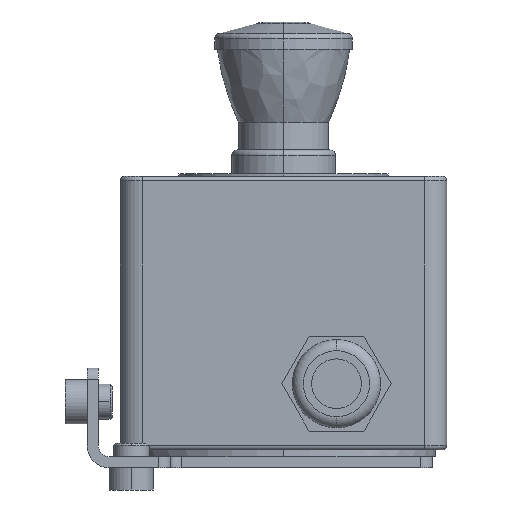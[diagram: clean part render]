
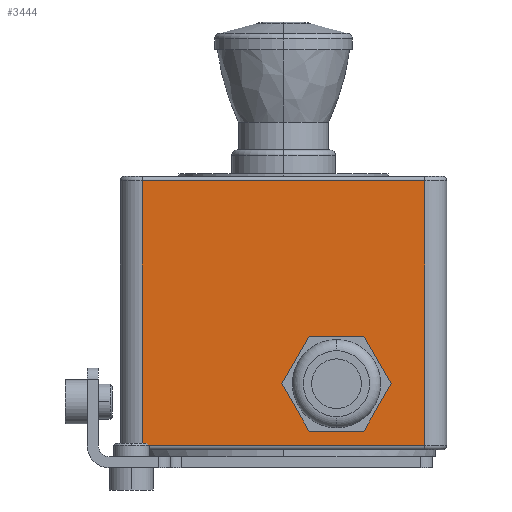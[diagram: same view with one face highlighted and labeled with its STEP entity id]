
A CAD part, left-side view. The second image highlights one B-rep face of the part: STEP entity #3444.
In plain terms, the highlighted planar face has unit normal (-1, 0, 0).
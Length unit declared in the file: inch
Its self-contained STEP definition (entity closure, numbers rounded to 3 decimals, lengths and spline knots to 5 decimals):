
#330=DIRECTION('',(0.,-1.,0.));
#331=VECTOR('',#330,3.2);
#332=CARTESIAN_POINT('',(-1.85,1.6,-1.5));
#333=LINE('',#332,#331);
#352=DIRECTION('',(0.,0.,1.));
#353=VECTOR('',#352,3.);
#354=CARTESIAN_POINT('',(-1.85,-1.6,-1.5));
#355=LINE('',#354,#353);
#360=DIRECTION('',(0.,-1.,0.));
#361=VECTOR('',#360,0.62015);
#362=CARTESIAN_POINT('',(-1.85,-0.28993,-1.33707));
#363=LINE('',#362,#361);
#364=DIRECTION('',(0.,-0.5,0.866));
#365=VECTOR('',#364,0.62015);
#366=CARTESIAN_POINT('',(-1.85,-0.91008,-1.33707));
#367=LINE('',#366,#365);
#368=DIRECTION('',(0.,0.5,0.866));
#369=VECTOR('',#368,0.62015);
#370=CARTESIAN_POINT('',(-1.85,-1.22015,-0.8));
#371=LINE('',#370,#369);
#372=DIRECTION('',(0.,1.,0.));
#373=VECTOR('',#372,0.62015);
#374=CARTESIAN_POINT('',(-1.85,-0.91008,-0.26293));
#375=LINE('',#374,#373);
#376=DIRECTION('',(0.,0.5,-0.866));
#377=VECTOR('',#376,0.62015);
#378=CARTESIAN_POINT('',(-1.85,-0.28993,-0.26293));
#379=LINE('',#378,#377);
#380=DIRECTION('',(0.,-0.5,-0.866));
#381=VECTOR('',#380,0.62015);
#382=CARTESIAN_POINT('',(-1.85,0.02015,-0.8));
#383=LINE('',#382,#381);
#384=DIRECTION('',(0.,0.,-1.));
#385=VECTOR('',#384,3.);
#386=CARTESIAN_POINT('',(-1.85,1.6,1.5));
#387=LINE('',#386,#385);
#454=DIRECTION('',(0.,1.,0.));
#455=VECTOR('',#454,3.2);
#456=CARTESIAN_POINT('',(-1.85,-1.6,1.5));
#457=LINE('',#456,#455);
#2387=CARTESIAN_POINT('',(-1.85,-0.91008,-1.33707));
#2388=VERTEX_POINT('',#2387);
#2389=CARTESIAN_POINT('',(-1.85,-0.28993,-1.33707));
#2390=VERTEX_POINT('',#2389);
#2391=CARTESIAN_POINT('',(-1.85,-1.22015,-0.8));
#2392=VERTEX_POINT('',#2391);
#2393=CARTESIAN_POINT('',(-1.85,-0.91008,-0.26293));
#2394=VERTEX_POINT('',#2393);
#2395=CARTESIAN_POINT('',(-1.85,-0.28993,-0.26293));
#2396=VERTEX_POINT('',#2395);
#2397=CARTESIAN_POINT('',(-1.85,0.02015,-0.8));
#2398=VERTEX_POINT('',#2397);
#2403=CARTESIAN_POINT('',(-1.85,1.6,1.5));
#2404=CARTESIAN_POINT('',(-1.85,1.6,-1.5));
#2405=VERTEX_POINT('',#2403);
#2406=VERTEX_POINT('',#2404);
#2435=CARTESIAN_POINT('',(-1.85,-1.6,-1.5));
#2436=CARTESIAN_POINT('',(-1.85,-1.6,1.5));
#2437=VERTEX_POINT('',#2435);
#2438=VERTEX_POINT('',#2436);
#3417=CARTESIAN_POINT('',(-1.85,0.,0.));
#3418=DIRECTION('',(1.,0.,0.));
#3419=DIRECTION('',(0.,1.,0.));
#3420=AXIS2_PLACEMENT_3D('',#3417,#3418,#3419);
#3421=PLANE('',#3420);
#3423=ORIENTED_EDGE('',*,*,#3422,.F.);
#3425=ORIENTED_EDGE('',*,*,#3424,.F.);
#3426=ORIENTED_EDGE('',*,*,#3408,.F.);
#3427=ORIENTED_EDGE('',*,*,#3355,.F.);
#3428=EDGE_LOOP('',(#3423,#3425,#3426,#3427));
#3429=FACE_OUTER_BOUND('',#3428,.F.);
#3431=ORIENTED_EDGE('',*,*,#3430,.T.);
#3433=ORIENTED_EDGE('',*,*,#3432,.T.);
#3435=ORIENTED_EDGE('',*,*,#3434,.T.);
#3437=ORIENTED_EDGE('',*,*,#3436,.T.);
#3439=ORIENTED_EDGE('',*,*,#3438,.T.);
#3441=ORIENTED_EDGE('',*,*,#3440,.T.);
#3442=EDGE_LOOP('',(#3431,#3433,#3435,#3437,#3439,#3441));
#3443=FACE_BOUND('',#3442,.F.);
#3355=EDGE_CURVE('',#2406,#2437,#333,.T.);
#3408=EDGE_CURVE('',#2437,#2438,#355,.T.);
#3422=EDGE_CURVE('',#2405,#2406,#387,.T.);
#3424=EDGE_CURVE('',#2438,#2405,#457,.T.);
#3430=EDGE_CURVE('',#2390,#2388,#363,.T.);
#3432=EDGE_CURVE('',#2388,#2392,#367,.T.);
#3434=EDGE_CURVE('',#2392,#2394,#371,.T.);
#3436=EDGE_CURVE('',#2394,#2396,#375,.T.);
#3438=EDGE_CURVE('',#2396,#2398,#379,.T.);
#3440=EDGE_CURVE('',#2398,#2390,#383,.T.);
#3444=ADVANCED_FACE('',(#3429,#3443),#3421,.F.);
